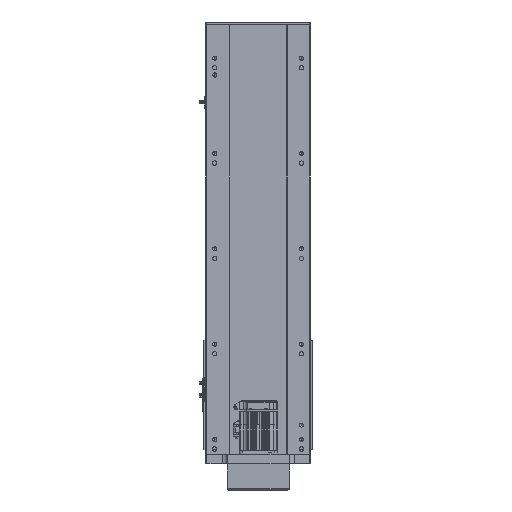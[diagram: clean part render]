
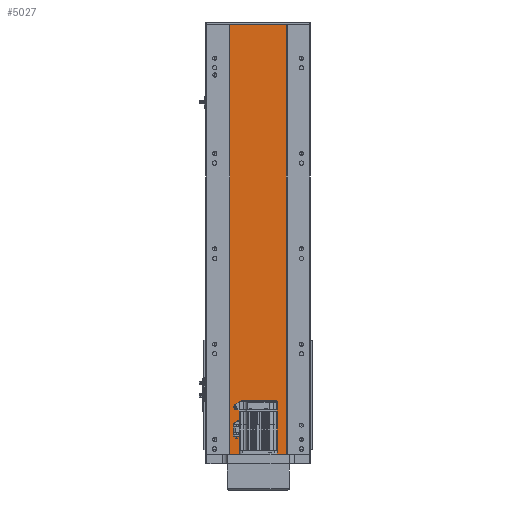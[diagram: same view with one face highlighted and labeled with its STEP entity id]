
A CAD part, front view. The second image highlights one B-rep face of the part: STEP entity #5027.
In plain terms, the highlighted planar face has unit normal (0, -1, 0).
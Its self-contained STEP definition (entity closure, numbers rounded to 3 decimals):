
#490 = ORIENTED_EDGE ( 'NONE', *, *, #39426, .T. ) ;
#822 = DIRECTION ( 'NONE',  ( 1., 0., 0. ) ) ;
#3907 = CARTESIAN_POINT ( 'NONE',  ( 0., 155.016, 0. ) ) ;
#4196 = ORIENTED_EDGE ( 'NONE', *, *, #39715, .T. ) ;
#4851 = EDGE_LOOP ( 'NONE', ( #4196, #10521, #27653, #490 ) ) ;
#5027 = ADVANCED_FACE ( 'NONE', ( #40963 ), #34348, .F. ) ;
#7232 = LINE ( 'NONE', #3907, #15270 ) ;
#7424 = DIRECTION ( 'NONE',  ( 0., 0., 1. ) ) ;
#8147 = CARTESIAN_POINT ( 'NONE',  ( 432.408, 155.016, 901. ) ) ;
#9008 = CARTESIAN_POINT ( 'NONE',  ( 432.408, 155.016, 901. ) ) ;
#10149 = CARTESIAN_POINT ( 'NONE',  ( 432.408, 155.016, 0. ) ) ;
#10202 = VERTEX_POINT ( 'NONE', #12274 ) ;
#10521 = ORIENTED_EDGE ( 'NONE', *, *, #29092, .F. ) ;
#12274 = CARTESIAN_POINT ( 'NONE',  ( 551.58, 155.016, 0. ) ) ;
#13615 = LINE ( 'NONE', #20229, #14280 ) ;
#14280 = VECTOR ( 'NONE', #37229, 1000. ) ;
#14415 = VERTEX_POINT ( 'NONE', #10149 ) ;
#15270 = VECTOR ( 'NONE', #822, 1000. ) ;
#18503 = LINE ( 'NONE', #9008, #19446 ) ;
#19446 = VECTOR ( 'NONE', #25981, 1000. ) ;
#19792 = AXIS2_PLACEMENT_3D ( 'NONE', #23961, #24178, #7424 ) ;
#20229 = CARTESIAN_POINT ( 'NONE',  ( 551.58, 155.016, 901. ) ) ;
#22420 = VECTOR ( 'NONE', #35074, 1000. ) ;
#23945 = VERTEX_POINT ( 'NONE', #27970 ) ;
#23961 = CARTESIAN_POINT ( 'NONE',  ( 0., 155.016, 901. ) ) ;
#24178 = DIRECTION ( 'NONE',  ( 0., 1., 0. ) ) ;
#24883 = CARTESIAN_POINT ( 'NONE',  ( 0., 155.016, 901. ) ) ;
#25981 = DIRECTION ( 'NONE',  ( 0., 0., -1. ) ) ;
#27653 = ORIENTED_EDGE ( 'NONE', *, *, #30923, .F. ) ;
#27970 = CARTESIAN_POINT ( 'NONE',  ( 551.58, 155.016, 901. ) ) ;
#29092 = EDGE_CURVE ( 'NONE', #23945, #10202, #13615, .T. ) ;
#30923 = EDGE_CURVE ( 'NONE', #30925, #23945, #38806, .T. ) ;
#30925 = VERTEX_POINT ( 'NONE', #8147 ) ;
#34348 = PLANE ( 'NONE',  #19792 ) ;
#35074 = DIRECTION ( 'NONE',  ( 1., 0., 0. ) ) ;
#37229 = DIRECTION ( 'NONE',  ( 0., 0., -1. ) ) ;
#38806 = LINE ( 'NONE', #24883, #22420 ) ;
#39426 = EDGE_CURVE ( 'NONE', #30925, #14415, #18503, .T. ) ;
#39715 = EDGE_CURVE ( 'NONE', #14415, #10202, #7232, .T. ) ;
#40963 = FACE_OUTER_BOUND ( 'NONE', #4851, .T. ) ;
